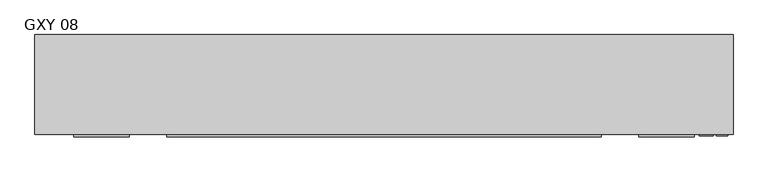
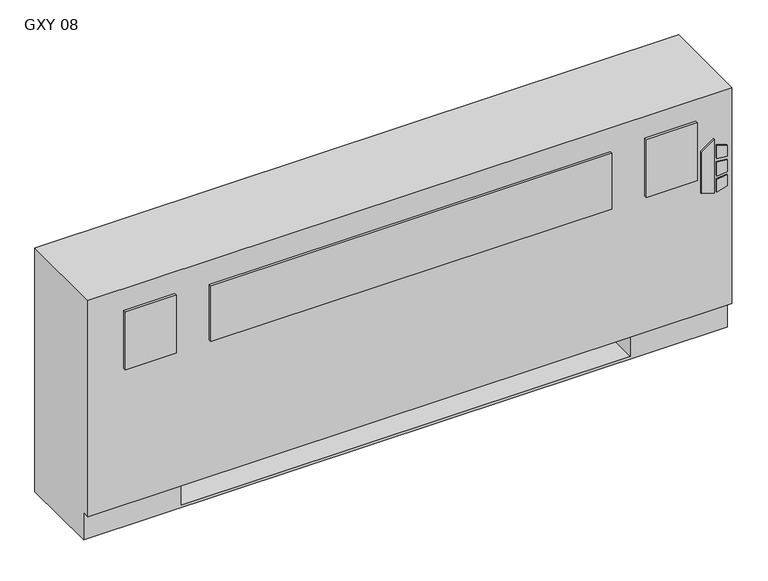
"""IFC4 building model written with IfcOpenShell, lengths in millimetres: proxy geometry, Vertical_Fan_Coil_Unit_-_GXY_-_IEC_-_2-Pipe_FS-FR_RH_2022 : GXY 08."""

from ifc_helpers import new_model, si_unit, point, frame, frame_2d, origin, place, context, project, spatial, polyline, circle_curve, trimmed, segment, composite_curve, outline, extrude, source, transform, mapped, element, save
from ifc_brep_helpers import plane_surface, revolved_surface, advanced_brep


def gxy_08_8e0e8857(model_context):
    return source(origin(), model_context, "Body", "SolidModel", [
        extrude(outline(polyline([(391.6086829, 874.7868862), (381.6606126, 906.9602728), (523.831537, 906.9602728), (500.8095309, 874.7868862), (391.6086829, 874.7868862)])), frame((0.0, 12.7, 0.0), z_axis=(0.0, 1.0, 0.0), x_axis=(0.0, 0.0, 1.0)), (0.0, 0.0, 1.0), 3.175),
        extrude(outline(polyline([(470.6079683, 913.7186058), (467.4055757, 939.8), (496.6344168, 939.8), (504.6988318, 913.7186058), (470.6079683, 913.7186058)])), frame((0.0, 12.7, 0.0), z_axis=(0.0, 1.0, 0.0), x_axis=(0.0, 0.0, 1.0)), (0.0, 0.0, 1.0), 3.175),
        extrude(outline(polyline([(418.7444414, 939.8), (415.0789404, 913.7186058), (381.6606126, 913.7186058), (390.2948498, 939.8), (418.7444414, 939.8)])), frame((0.0, 12.7, 0.0), z_axis=(0.0, 1.0, 0.0), x_axis=(0.0, 0.0, 1.0)), (0.0, 0.0, 1.0), 3.175),
        extrude(outline(polyline([(458.0596028, 939.8), (460.3414292, 913.7186058), (424.4038806, 913.7186058), (427.1451456, 939.8), (458.0596028, 939.8)])), frame((0.0, 12.7, 0.0), z_axis=(0.0, 1.0, 0.0), x_axis=(0.0, 0.0, 1.0)), (0.0, 0.0, 1.0), 3.175),
        extrude(outline(polyline([(-431.8, 9.525), (-558.8, 9.525), (-558.8, 15.875), (-431.8, 15.875), (-431.8, 9.525)])), frame((0.0, 0.0, 431.8), z_axis=(0.0, 0.0, 1.0), x_axis=(1.0, 0.0, 0.0)), (0.0, 0.0, 1.0), 152.4),
        extrude(outline(polyline([(650.875, 9.525), (-346.075, 9.525), (-346.075, 15.875), (650.875, 15.875), (650.875, 9.525)])), frame((0.0, 0.0, 431.8), z_axis=(0.0, 0.0, 1.0), x_axis=(1.0, 0.0, 0.0)), (0.0, 0.0, 1.0), 146.05),
        extrude(outline(polyline([(863.6, 9.525), (736.6, 9.525), (736.6, 15.875), (863.6, 15.875), (863.6, 9.525)])), frame((0.0, 0.0, 431.8), z_axis=(0.0, 0.0, 1.0), x_axis=(1.0, 0.0, 0.0)), (0.0, 0.0, 1.0), 152.4),
        extrude(outline(polyline([(-527.05, 81.534), (-527.05, 223.266), (-127.0, 223.266), (-127.0, 81.534), (-527.05, 81.534)])), frame((0.0, 0.0, 327.025), z_axis=(0.0, 0.0, 1.0), x_axis=(1.0, 0.0, 0.0)), (0.0, 0.0, 1.0), 260.35),
        extrude(outline(composite_curve([segment(trimmed(circle_curve(frame_2d((78.9432, 398.5514)), 7.9375), [point((78.9432, 406.4889))], [point((78.9432, 390.6139))], False, "CARTESIAN"), True, "CONTINUOUS"), segment(trimmed(circle_curve(frame_2d((78.9432, 398.5514)), 7.9375), [point((78.9432, 390.6139))], [point((78.9432, 406.4889))], False, "CARTESIAN"), True, "CONTINUOUS")], self_intersect=False)), frame((711.2, 0.0, 0.0), z_axis=(1.0, 0.0, 0.0), x_axis=(0.0, 1.0, 0.0)), (0.0, 0.0, 1.0), 50.8),
        extrude(outline(composite_curve([segment(trimmed(circle_curve(frame_2d((155.9052, 537.3878)), 7.9375), [point((155.9052, 545.3253))], [point((155.9052, 529.4503))], False, "CARTESIAN"), True, "CONTINUOUS"), segment(trimmed(circle_curve(frame_2d((155.9052, 537.3878)), 7.9375), [point((155.9052, 529.4503))], [point((155.9052, 545.3253))], False, "CARTESIAN"), True, "CONTINUOUS")], self_intersect=False)), frame((711.2, 0.0, 0.0), z_axis=(1.0, 0.0, 0.0), x_axis=(0.0, 1.0, 0.0)), (0.0, 0.0, 1.0), 50.8),
        advanced_brep(
        [(952.5, 244.475, 641.35), (-647.7, 244.475, 641.35), (-647.7, 15.875, 641.35), (952.5, 15.875, 641.35), (-647.7, 244.475, 0.0), (952.5, 244.475, 0.0), (952.5, 34.925, 0.0), (-647.7, 34.925, 0.0), (711.2, 244.475, 73.025), (939.8, 244.475, 73.025), (939.8, 244.475, 628.65), (711.2, 244.475, 628.65), (711.2, 244.475, 418.0400565), (739.775, 244.475, 418.0400565), (739.775, 244.475, 388.4099435), (711.2, 244.475, 388.4099435), (711.2, 244.475, 290.5125), (739.775, 244.475, 290.5125), (739.775, 244.475, 261.9375), (711.2, 244.475, 261.9375), (711.2, 244.475, 119.0625), (739.775, 244.475, 119.0625), (739.775, 244.475, 90.4875), (711.2, 244.475, 90.4875), (-406.4, 244.475, 628.65), (-635.0, 244.475, 628.65), (-635.0, 244.475, 73.025), (-406.4, 244.475, 73.025), (-406.4, 244.475, 90.4875), (-434.975, 244.475, 90.4875), (-434.975, 244.475, 119.0625), (-406.4, 244.475, 119.0625), (-406.4, 244.475, 261.9375), (-434.975, 244.475, 261.9375), (-434.975, 244.475, 290.5125), (-406.4, 244.475, 290.5125), (-406.4, 244.475, 388.4099435), (-434.975, 244.475, 388.4099435), (-434.975, 244.475, 418.0400565), (-406.4, 244.475, 418.0400565), (729.4626, 244.475, 104.775), (718.3374, 244.475, 104.775), (729.4626, 244.475, 403.225), (718.3374, 244.475, 403.225), (729.4626, 244.475, 276.225), (718.3374, 244.475, 276.225), (-413.5374, 244.475, 104.775), (-424.6626, 244.475, 104.775), (-413.5374, 244.475, 276.225), (-424.6626, 244.475, 276.225), (-413.5374, 244.475, 403.225), (-424.6626, 244.475, 403.225), (-647.7, 34.925, 73.025), (-647.7, 15.875, 73.025), (952.5, 15.875, 73.025), (952.5, 34.925, 73.025), (-406.4, 34.925, 73.025), (-406.4, 219.075, 73.025), (711.2, 219.075, 73.025), (711.2, 34.925, 73.025), (711.2, 34.925, 6.35), (-406.4, 34.925, 6.35), (711.2, 41.275, 628.65), (939.8, 41.275, 628.65), (939.8, 41.275, 73.025), (711.2, 41.275, 73.025), (-406.4, 41.275, 628.65), (-406.4, 41.275, 73.025), (-635.0, 41.275, 73.025), (-635.0, 41.275, 628.65), (711.2, 219.075, 73.025), (711.2, 238.125, 90.4875), (711.2, 238.125, 119.0625), (711.2, 238.125, 261.9375), (711.2, 238.125, 290.5125), (711.2, 238.125, 388.4099435), (711.2, 238.125, 418.0400565), (-406.4, 219.075, 73.025), (-406.4, 238.125, 418.0400565), (-406.4, 238.125, 388.4099435), (-406.4, 238.125, 290.5125), (-406.4, 238.125, 261.9375), (-406.4, 238.125, 119.0625), (-406.4, 238.125, 90.4875), (-406.4, 219.075, 6.35), (711.2, 219.075, 6.35), (739.775, 238.125, 90.4875), (739.775, 238.125, 119.0625), (718.3374, 238.125, 104.775), (729.4626, 238.125, 104.775), (739.775, 238.125, 261.9375), (739.775, 238.125, 290.5125), (718.3374, 238.125, 276.225), (729.4626, 238.125, 276.225), (739.775, 238.125, 388.4099435), (739.775, 238.125, 418.0400565), (718.3374, 238.125, 403.225), (729.4626, 238.125, 403.225), (-434.975, 238.125, 119.0625), (-434.975, 238.125, 90.4875), (-424.6626, 238.125, 104.775), (-413.5374, 238.125, 104.775), (-434.975, 238.125, 290.5125), (-434.975, 238.125, 261.9375), (-424.6626, 238.125, 276.225), (-413.5374, 238.125, 276.225), (-434.975, 238.125, 418.0400565), (-434.975, 238.125, 388.4099435), (-424.6626, 238.125, 403.225), (-413.5374, 238.125, 403.225)],
        [
            (0, 1),
            (1, 2),
            (2, 3),
            (3, 0),
            (4, 5),
            (5, 6),
            (6, 7),
            (7, 4),
            (0, 5),
            (4, 1),
            (8, 9),
            (9, 10),
            (10, 11),
            (11, 12),
            (12, 13),
            (13, 14),
            (14, 15),
            (15, 16),
            (16, 17),
            (17, 18),
            (18, 19),
            (19, 20),
            (20, 21),
            (21, 22),
            (22, 23),
            (23, 8),
            (24, 25),
            (25, 26),
            (26, 27),
            (27, 28),
            (28, 29),
            (29, 30),
            (30, 31),
            (31, 32),
            (32, 33),
            (33, 34),
            (34, 35),
            (35, 36),
            (36, 37),
            (37, 38),
            (38, 39),
            (39, 24),
            (40, 41, circle_curve(frame((723.9, 244.475, 104.775), z_axis=(0.0, -1.0, 0.0), x_axis=(-1.0, 0.0, 0.0)), 5.5626)),
            (41, 40, circle_curve(frame((723.9, 244.475, 104.775), z_axis=(0.0, -1.0, 0.0), x_axis=(-1.0, 0.0, 0.0)), 5.5626)),
            (42, 43, circle_curve(frame((723.9, 244.475, 403.225), z_axis=(0.0, -1.0, 0.0), x_axis=(-1.0, 0.0, 0.0)), 5.5626)),
            (43, 42, circle_curve(frame((723.9, 244.475, 403.225), z_axis=(0.0, -1.0, 0.0), x_axis=(-1.0, 0.0, 0.0)), 5.5626)),
            (44, 45, circle_curve(frame((723.9, 244.475, 276.225), z_axis=(0.0, -1.0, 0.0), x_axis=(-1.0, 0.0, 0.0)), 5.5626)),
            (45, 44, circle_curve(frame((723.9, 244.475, 276.225), z_axis=(0.0, -1.0, 0.0), x_axis=(-1.0, 0.0, 0.0)), 5.5626)),
            (46, 47, circle_curve(frame((-419.1, 244.475, 104.775), z_axis=(0.0, -1.0, 0.0), x_axis=(-1.0, 0.0, 0.0)), 5.5626)),
            (47, 46, circle_curve(frame((-419.1, 244.475, 104.775), z_axis=(0.0, -1.0, 0.0), x_axis=(-1.0, 0.0, 0.0)), 5.5626)),
            (48, 49, circle_curve(frame((-419.1, 244.475, 276.225), z_axis=(0.0, -1.0, 0.0), x_axis=(-1.0, 0.0, 0.0)), 5.5626)),
            (49, 48, circle_curve(frame((-419.1, 244.475, 276.225), z_axis=(0.0, -1.0, 0.0), x_axis=(-1.0, 0.0, 0.0)), 5.5626)),
            (50, 51, circle_curve(frame((-419.1, 244.475, 403.225), z_axis=(0.0, -1.0, 0.0), x_axis=(-1.0, 0.0, 0.0)), 5.5626)),
            (51, 50, circle_curve(frame((-419.1, 244.475, 403.225), z_axis=(0.0, -1.0, 0.0), x_axis=(-1.0, 0.0, 0.0)), 5.5626)),
            (7, 52),
            (52, 53),
            (53, 2),
            (53, 54),
            (54, 3),
            (54, 55),
            (55, 6),
            (52, 56),
            (56, 57),
            (57, 58),
            (58, 59),
            (59, 55),
            (59, 60),
            (60, 61),
            (61, 56),
            (62, 63),
            (63, 64),
            (64, 65),
            (65, 62),
            (66, 67),
            (67, 68),
            (68, 69),
            (69, 66),
            (65, 70),
            (70, 8),
            (23, 71),
            (71, 72),
            (72, 20),
            (19, 73),
            (73, 74),
            (74, 16),
            (15, 75),
            (75, 76),
            (76, 12),
            (11, 62),
            (64, 9),
            (63, 10),
            (69, 25),
            (24, 66),
            (68, 26),
            (67, 77),
            (77, 27),
            (39, 78),
            (78, 79),
            (79, 36),
            (35, 80),
            (80, 81),
            (81, 32),
            (31, 82),
            (82, 83),
            (83, 28),
            (57, 84),
            (84, 85),
            (85, 58),
            (85, 60),
            (84, 61),
            (71, 86),
            (86, 87),
            (87, 72),
            (88, 89, circle_curve(frame((723.9, 238.125, 104.775), z_axis=(0.0, 1.0, 0.0), x_axis=(-1.0, 0.0, 0.0)), 5.5626)),
            (89, 88, circle_curve(frame((723.9, 238.125, 104.775), z_axis=(0.0, 1.0, 0.0), x_axis=(-1.0, 0.0, 0.0)), 5.5626)),
            (73, 90),
            (90, 91),
            (91, 74),
            (92, 93, circle_curve(frame((723.9, 238.125, 276.225), z_axis=(0.0, 1.0, 0.0), x_axis=(-1.0, 0.0, 0.0)), 5.5626)),
            (93, 92, circle_curve(frame((723.9, 238.125, 276.225), z_axis=(0.0, 1.0, 0.0), x_axis=(-1.0, 0.0, 0.0)), 5.5626)),
            (75, 94),
            (94, 95),
            (95, 76),
            (96, 97, circle_curve(frame((723.9, 238.125, 403.225), z_axis=(0.0, 1.0, 0.0), x_axis=(-1.0, 0.0, 0.0)), 5.5626)),
            (97, 96, circle_curve(frame((723.9, 238.125, 403.225), z_axis=(0.0, 1.0, 0.0), x_axis=(-1.0, 0.0, 0.0)), 5.5626)),
            (98, 99),
            (99, 83),
            (82, 98),
            (100, 101, circle_curve(frame((-419.1, 238.125, 104.775), z_axis=(0.0, 1.0, 0.0), x_axis=(-1.0, 0.0, 0.0)), 5.5626)),
            (101, 100, circle_curve(frame((-419.1, 238.125, 104.775), z_axis=(0.0, 1.0, 0.0), x_axis=(-1.0, 0.0, 0.0)), 5.5626)),
            (102, 103),
            (103, 81),
            (80, 102),
            (104, 105, circle_curve(frame((-419.1, 238.125, 276.225), z_axis=(0.0, 1.0, 0.0), x_axis=(-1.0, 0.0, 0.0)), 5.5626)),
            (105, 104, circle_curve(frame((-419.1, 238.125, 276.225), z_axis=(0.0, 1.0, 0.0), x_axis=(-1.0, 0.0, 0.0)), 5.5626)),
            (106, 107),
            (107, 79),
            (78, 106),
            (108, 109, circle_curve(frame((-419.1, 238.125, 403.225), z_axis=(0.0, 1.0, 0.0), x_axis=(-1.0, 0.0, 0.0)), 5.5626)),
            (109, 108, circle_curve(frame((-419.1, 238.125, 403.225), z_axis=(0.0, 1.0, 0.0), x_axis=(-1.0, 0.0, 0.0)), 5.5626)),
            (87, 21),
            (86, 22),
            (91, 17),
            (90, 18),
            (95, 13),
            (94, 14),
            (30, 98),
            (99, 29),
            (34, 102),
            (103, 33),
            (38, 106),
            (107, 37),
            (88, 41),
            (40, 89),
            (96, 43),
            (42, 97),
            (92, 45),
            (44, 93),
            (100, 47),
            (46, 101),
            (104, 49),
            (48, 105),
            (108, 51),
            (50, 109),
        ],
        [
            plane_surface(frame((-647.7, 244.475, 641.35), z_axis=(0.0, 0.0, 1.0), x_axis=(-1.0, 0.0, 0.0))),
            plane_surface(frame((-647.7, 244.475, 0.0), z_axis=(0.0, 0.0, -1.0), x_axis=(1.0, 0.0, 0.0))),
            plane_surface(frame((952.5, 244.475, 641.35), z_axis=(0.0, 1.0, 0.0), x_axis=(0.0, 0.0, -1.0))),
            plane_surface(frame((-647.7, 244.475, 641.35), z_axis=(-1.0, 0.0, 0.0), x_axis=(0.0, 0.0, -1.0))),
            plane_surface(frame((-647.7, 15.875, 641.35), z_axis=(0.0, -1.0, 0.0), x_axis=(0.0, 0.0, -1.0))),
            plane_surface(frame((952.5, 15.875, 641.35), z_axis=(1.0, 0.0, 0.0), x_axis=(0.0, 0.0, -1.0))),
            plane_surface(frame((-647.7, 15.875, 73.025), z_axis=(0.0, 0.0, -1.0), x_axis=(1.0, 0.0, 0.0))),
            plane_surface(frame((-647.7, 34.925, 73.025), z_axis=(0.0, -1.0, 0.0), x_axis=(1.0, 0.0, 0.0))),
            plane_surface(frame((711.2, 41.275, 628.65), z_axis=(0.0, 1.0, 0.0), x_axis=(0.0, 0.0, -1.0))),
            plane_surface(frame((711.2, 41.275, 628.65), z_axis=(1.0, 0.0, 0.0), x_axis=(0.0, 1.0, 0.0))),
            plane_surface(frame((711.2, 41.275, 73.025), z_axis=(0.0, 0.0, 1.0), x_axis=(0.0, 1.0, 0.0))),
            plane_surface(frame((939.8, 41.275, 73.025), z_axis=(-1.0, 0.0, 0.0), x_axis=(0.0, 1.0, 0.0))),
            plane_surface(frame((939.8, 41.275, 628.65), z_axis=(0.0, 0.0, -1.0), x_axis=(0.0, 1.0, 0.0))),
            plane_surface(frame((-406.4, 41.275, 628.65), z_axis=(0.0, 0.0, -1.0), x_axis=(0.0, 1.0, 0.0))),
            plane_surface(frame((-635.0, 41.275, 628.65), z_axis=(1.0, 0.0, 0.0), x_axis=(0.0, 1.0, 0.0))),
            plane_surface(frame((-635.0, 41.275, 73.025), z_axis=(0.0, 0.0, 1.0), x_axis=(0.0, 1.0, 0.0))),
            plane_surface(frame((-406.4, 41.275, 73.025), z_axis=(-1.0, 0.0, 0.0), x_axis=(0.0, 1.0, 0.0))),
            plane_surface(frame((711.2, 219.075, 73.025), z_axis=(0.0, -1.0, 0.0), x_axis=(0.0, 0.0, -1.0))),
            plane_surface(frame((711.2, 219.075, 73.025), z_axis=(-1.0, 0.0, 0.0), x_axis=(0.0, -1.0, 0.0))),
            plane_surface(frame((711.2, 219.075, 6.35), z_axis=(0.0, 0.0, 1.0), x_axis=(0.0, -1.0, 0.0))),
            plane_surface(frame((-406.4, 219.075, 6.35), z_axis=(1.0, 0.0, 0.0), x_axis=(0.0, -1.0, 0.0))),
            plane_surface(frame((739.775, 238.125, 119.0625), z_axis=(0.0, -1.0, 0.0), x_axis=(-1.0, 0.0, 0.0))),
            plane_surface(frame((711.2, 244.475, 119.0625), z_axis=(0.0, 0.0, 1.0), x_axis=(0.0, -1.0, 0.0))),
            plane_surface(frame((739.775, 244.475, 119.0625), z_axis=(1.0, 0.0, 0.0), x_axis=(0.0, -1.0, 0.0))),
            plane_surface(frame((739.775, 244.475, 90.4875), z_axis=(0.0, 0.0, -1.0), x_axis=(0.0, -1.0, 0.0))),
            plane_surface(frame((711.2, 244.475, 290.5125), z_axis=(0.0, 0.0, 1.0), x_axis=(0.0, -1.0, 0.0))),
            plane_surface(frame((739.775, 244.475, 290.5125), z_axis=(1.0, 0.0, 0.0), x_axis=(0.0, -1.0, 0.0))),
            plane_surface(frame((739.775, 244.475, 261.9375), z_axis=(0.0, 0.0, -1.0), x_axis=(0.0, -1.0, 0.0))),
            plane_surface(frame((711.2, 244.475, 418.0400565), z_axis=(0.0, 0.0, 1.0), x_axis=(0.0, -1.0, 0.0))),
            plane_surface(frame((739.775, 244.475, 418.0400565), z_axis=(1.0, 0.0, 0.0), x_axis=(0.0, -1.0, 0.0))),
            plane_surface(frame((739.775, 244.475, 388.4099435), z_axis=(0.0, 0.0, -1.0), x_axis=(0.0, -1.0, 0.0))),
            plane_surface(frame((-434.975, 244.475, 119.0625), z_axis=(0.0, 0.0, 1.0), x_axis=(0.0, -1.0, 0.0))),
            plane_surface(frame((-406.4, 244.475, 90.4875), z_axis=(0.0, 0.0, -1.0), x_axis=(0.0, -1.0, 0.0))),
            plane_surface(frame((-434.975, 244.475, 90.4875), z_axis=(-1.0, 0.0, 0.0), x_axis=(0.0, -1.0, 0.0))),
            plane_surface(frame((-434.975, 244.475, 290.5125), z_axis=(0.0, 0.0, 1.0), x_axis=(0.0, -1.0, 0.0))),
            plane_surface(frame((-406.4, 244.475, 261.9375), z_axis=(0.0, 0.0, -1.0), x_axis=(0.0, -1.0, 0.0))),
            plane_surface(frame((-434.975, 244.475, 261.9375), z_axis=(-1.0, 0.0, 0.0), x_axis=(0.0, -1.0, 0.0))),
            plane_surface(frame((-434.975, 244.475, 418.0400565), z_axis=(0.0, 0.0, 1.0), x_axis=(0.0, -1.0, 0.0))),
            plane_surface(frame((-406.4, 244.475, 388.4099435), z_axis=(0.0, 0.0, -1.0), x_axis=(0.0, -1.0, 0.0))),
            plane_surface(frame((-434.975, 244.475, 388.4099435), z_axis=(-1.0, 0.0, 0.0), x_axis=(0.0, -1.0, 0.0))),
            revolved_surface(polyline([(718.3374, 238.125, 104.775), (718.3374, 244.475, 104.775)]), (723.9, 244.475, 104.775), (0.0, -1.0, 0.0)),
            revolved_surface(polyline([(718.3374, 238.125, 403.225), (718.3374, 244.475, 403.225)]), (723.9, 244.475, 403.225), (0.0, -1.0, 0.0)),
            revolved_surface(polyline([(718.3374, 238.125, 276.225), (718.3374, 244.475, 276.225)]), (723.9, 244.475, 276.225), (0.0, -1.0, 0.0)),
            revolved_surface(polyline([(-424.6626, 238.125, 104.775), (-424.6626, 244.475, 104.775)]), (-419.1, 244.475, 104.775), (0.0, -1.0, 0.0)),
            revolved_surface(polyline([(-424.6626, 238.125, 276.225), (-424.6626, 244.475, 276.225)]), (-419.1, 244.475, 276.225), (0.0, -1.0, 0.0)),
            revolved_surface(polyline([(-424.6626, 238.125, 403.225), (-424.6626, 244.475, 403.225)]), (-419.1, 244.475, 403.225), (0.0, -1.0, 0.0)),
        ],
        [
            (0, [[1, 2, 3, 4]]),
            (1, [[5, 6, 7, 8]]),
            (2, [[-1, 9, -5, 10], [11, 12, 13, 14, 15, 16, 17, 18, 19, 20, 21, 22, 23, 24, 25, 26], [27, 28, 29, 30, 31, 32, 33, 34, 35, 36, 37, 38, 39, 40, 41, 42], [43, 44], [45, 46], [47, 48], [49, 50], [51, 52], [53, 54]]),
            (3, [[-2, -10, -8, 55, 56, 57]]),
            (4, [[-3, -57, 58, 59]]),
            (5, [[-4, -59, 60, 61, -6, -9]]),
            (6, [[-56, 62, 63, 64, 65, 66, -60, -58]]),
            (7, [[-7, -61, -66, 67, 68, 69, -62, -55]]),
            (8, [[70, 71, 72, 73]]),
            (8, [[74, 75, 76, 77]]),
            (9, [[-73, 78, 79, -26, 80, 81, 82, -22, 83, 84, 85, -18, 86, 87, 88, -14, 89]]),
            (10, [[-72, 90, -11, -79, -78]]),
            (11, [[-71, 91, -12, -90]]),
            (12, [[-70, -89, -13, -91]]),
            (13, [[-77, 92, -27, 93]]),
            (14, [[-76, 94, -28, -92]]),
            (15, [[-75, 95, 96, -29, -94]]),
            (16, [[-74, -93, -42, 97, 98, 99, -38, 100, 101, 102, -34, 103, 104, 105, -30, -96, -95]]),
            (17, [[-64, 106, 107, 108]]),
            (18, [[-108, 109, -67, -65]]),
            (19, [[-107, 110, -68, -109]]),
            (20, [[-106, -63, -69, -110]]),
            (21, [[111, 112, 113, -81], [114, 115]]),
            (21, [[116, 117, 118, -84], [119, 120]]),
            (21, [[121, 122, 123, -87], [124, 125]]),
            (21, [[126, 127, -104, 128], [129, 130]]),
            (21, [[131, 132, -101, 133], [134, 135]]),
            (21, [[136, 137, -98, 138], [139, 140]]),
            (22, [[-113, 141, -23, -82]]),
            (23, [[-112, 142, -24, -141]]),
            (24, [[-111, -80, -25, -142]]),
            (25, [[-118, 143, -19, -85]]),
            (26, [[-117, 144, -20, -143]]),
            (27, [[-116, -83, -21, -144]]),
            (28, [[-123, 145, -15, -88]]),
            (29, [[-122, 146, -16, -145]]),
            (30, [[-121, -86, -17, -146]]),
            (31, [[-128, -103, -33, 147]]),
            (32, [[-127, 148, -31, -105]]),
            (33, [[-126, -147, -32, -148]]),
            (34, [[-133, -100, -37, 149]]),
            (35, [[-132, 150, -35, -102]]),
            (36, [[-131, -149, -36, -150]]),
            (37, [[-138, -97, -41, 151]]),
            (38, [[-137, 152, -39, -99]]),
            (39, [[-136, -151, -40, -152]]),
            (40, [[153, -43, 154, -114]]),
            (40, [[-153, -115, -154, -44]]),
            (41, [[155, -45, 156, -124]]),
            (41, [[-155, -125, -156, -46]]),
            (42, [[157, -47, 158, -119]]),
            (42, [[-157, -120, -158, -48]]),
            (43, [[159, -49, 160, -129]]),
            (43, [[-159, -130, -160, -50]]),
            (44, [[161, -51, 162, -134]]),
            (44, [[-161, -135, -162, -52]]),
            (45, [[163, -53, 164, -139]]),
            (45, [[-163, -140, -164, -54]]),
        ],
    ),
    ])


if __name__ == "__main__":
    model = new_model("IFC4")
    model_context = context("Model", 3, world=origin())
    ifc_project = project(units=[si_unit("LENGTHUNIT", "METRE", prefix="MILLI")], contexts=[model_context])
    site = spatial("IfcSite", under=ifc_project)
    building = spatial("IfcBuilding", under=site)
    placement = place(None, origin())
    gxy_08_shape = gxy_08_8e0e8857(model_context)
    element("IfcBuildingElementProxy", 1, Name="Vertical_Fan_Coil_Unit_-_GXY_-_IEC_-_2-Pipe_FS-FR_RH_2022 : GXY 08", ObjectType="Vertical_Fan_Coil_Unit_-_GXY_-_IEC_-_2-Pipe_FS-FR_RH_2022 : GXY 08", at=placement, inside=building, context=model_context, shape_type="MappedRepresentation", body=[
        mapped(gxy_08_shape, transform((0.0, 0.0, 0.0), x_axis=(1.0, 0.0, 0.0), y_axis=(0.0, 1.0, 0.0), z_axis=(0.0, 0.0, 1.0))),
    ])
    save(model, "model.ifc")
